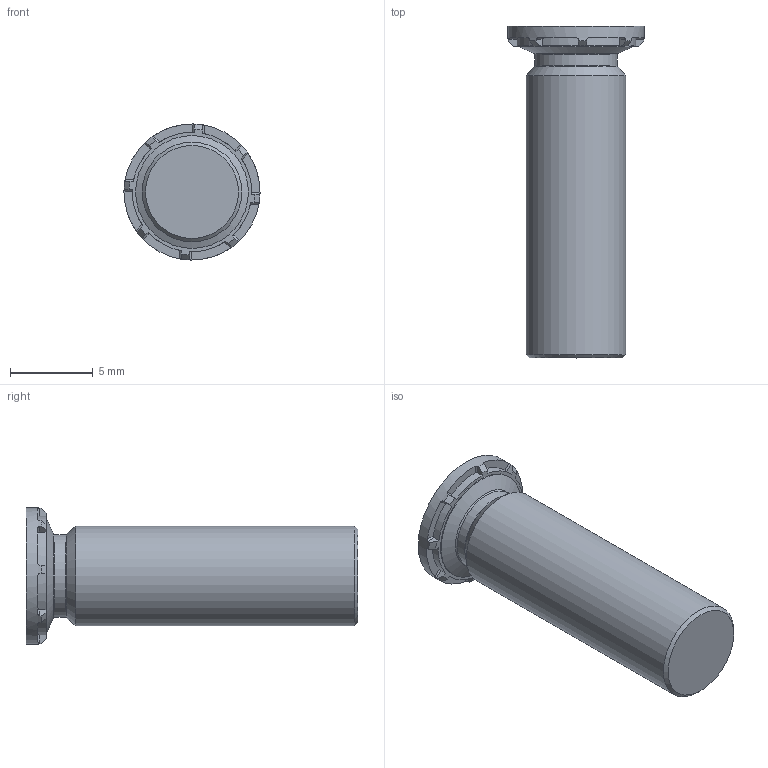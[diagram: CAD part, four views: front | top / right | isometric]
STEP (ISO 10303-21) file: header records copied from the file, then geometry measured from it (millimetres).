
FILE_DESCRIPTION(/* description */ (''),/* implementation_level */ '2;1');
FILE_NAME(/* name */ 'C:\Users\keval.kumar\Desktop\Fastit\Clinch Screw- FH Range\M6\Clinch Screw-FH Range_M6x20.stp',/* time_stamp */ '2024-03-12T12:06:36+06:00',/* author */ ('keval.kumar'),/* organization */ (''),/* preprocessor_version */ 'ST-DEVELOPER v18.1',/* originating_system */ 'Autodesk Inventor 2022',/* authorisation */ '');
FILE_SCHEMA (('AUTOMOTIVE_DESIGN { 1 0 10303 214 3 1 1 }'));
Length unit declared in the file: millimetre
Products named in the file (1): Clinch Screw-FH Range_M6x20
Bounding box: 8.2 x 20 x 8.2 mm (x, y, z)
Volume: 580.4 mm3; surface area: 491.5 mm2
Topology: 1 solids, 1 shells, 68 faces, 193 edges, 128 vertices
Faces by surface type: plane 43, cylinder 12, cone 11, torus 2
Full cylindrical faces by diameter (mm): 5 x1, 6 x1, 6.8 x1, 8.2 x1
Entity records: 2278 total; most frequent: CARTESIAN_POINT 422, DIRECTION 405, ORIENTED_EDGE 386, EDGE_CURVE 193, AXIS2_PLACEMENT_3D 159, VERTEX_POINT 128, LINE 87, VECTOR 87
